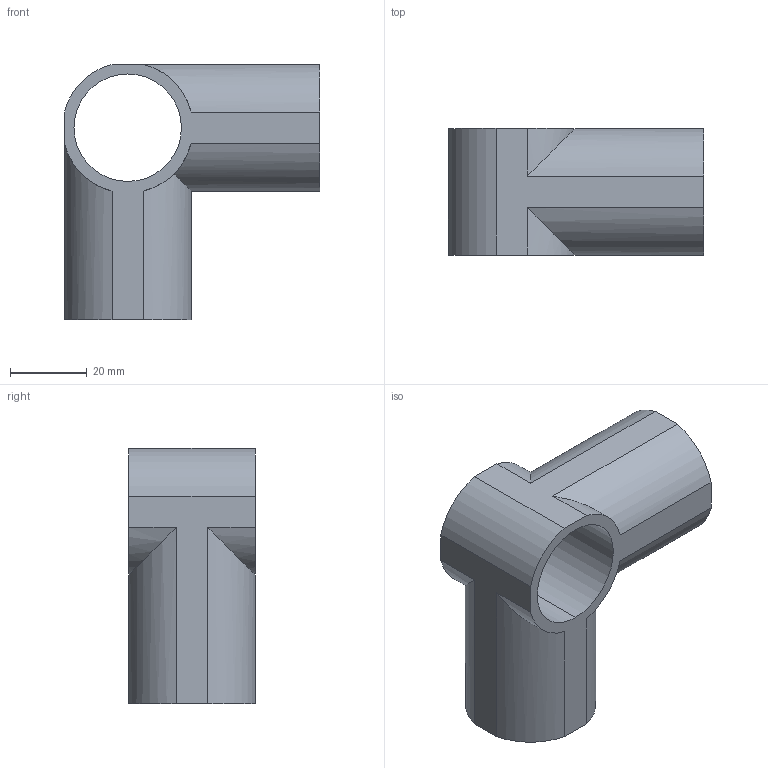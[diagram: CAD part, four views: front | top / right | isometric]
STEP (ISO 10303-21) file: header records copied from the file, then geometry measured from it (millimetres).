
FILE_DESCRIPTION (( 'STEP AP214' ), '1' );
FILE_NAME ('PJ-004B.STEP', '2023-09-12T10:57:51', ( 'catia' ), ( 'HP Inc.' ), 'SwSTEP 2.0', 'SolidWorks 2021', '' );
FILE_SCHEMA (( 'AUTOMOTIVE_DESIGN' ));
Length unit declared in the file: millimetre
Products named in the file (1): PJ-004B
Bounding box: 66.5 x 33 x 66.5 mm (x, y, z)
Volume: 35509 mm3; surface area: 19977.9 mm2
Topology: 1 solids, 1 shells, 31 faces, 79 edges, 52 vertices
Faces by surface type: cylinder 21, plane 10
Entity records: 983 total; most frequent: CARTESIAN_POINT 193, DIRECTION 161, ORIENTED_EDGE 158, EDGE_CURVE 79, AXIS2_PLACEMENT_3D 60, VERTEX_POINT 52, LINE 41, VECTOR 41
